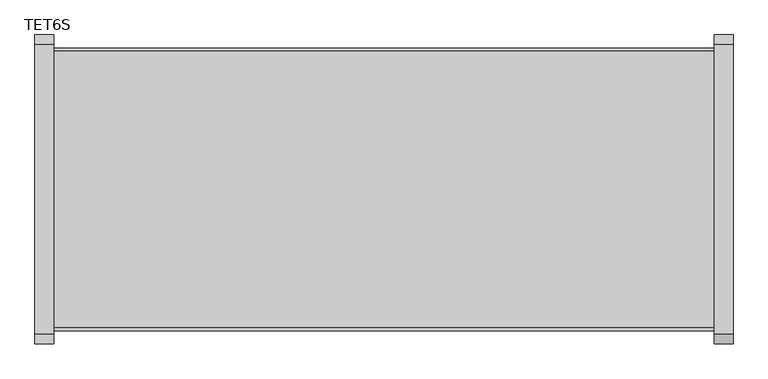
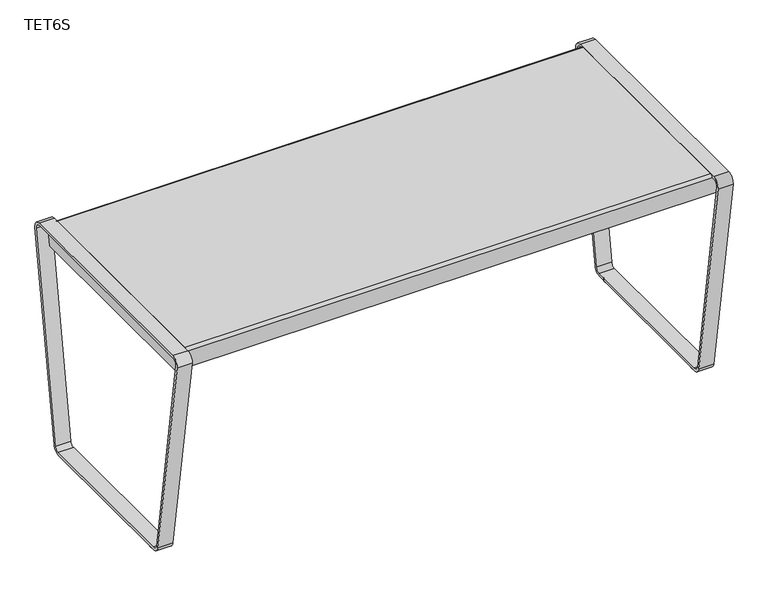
"""IFC4 building model written with IfcOpenShell, lengths in millimetres: furniture geometry, Stance_HC-Terrace-Table_ Steel : TET6S."""

from ifc_helpers import new_model, si_unit, point, frame, frame_2d, origin, origin_with_axes, place, context, project, spatial, polyline, circle_curve, trimmed, segment, composite_curve, outline, extrude, source, transform, mapped, element, save
from ifc_brep_helpers import plane_surface, cylinder_surface, revolved_surface, advanced_brep


def tet6s_bc5166f8(model_context):
    return source(origin(), model_context, "Body", "SolidModel", [
        extrude(outline(polyline([(1441.45, 466.6001935), (1441.45, -283.1265265), (1352.55, -283.1265265), (1352.55, 466.6001935), (1441.45, 466.6001935)])), frame((0.0, 0.0, 762.0), z_axis=(0.0, 0.0, 1.0), x_axis=(1.0, 0.0, 0.0)), (0.0, 0.0, 1.0), 3.175),
        extrude(outline(composite_curve([segment(polyline([(-283.1265265, 762.0), (466.6001935, 762.0), (455.9632684, 701.675)]), True, "CONTINUOUS"), segment(trimmed(circle_curve(frame_2d((91.7368335, 7660.7390549)), 6968.5890549), [point((455.9632684, 701.675))], [point((-272.4896014, 701.675))], False, "CARTESIAN"), True, "CONTINUOUS"), segment(polyline([(-272.4896014, 701.675), (-283.1265265, 762.0)]), True, "CONTINUOUS")], self_intersect=False)), frame((1394.6124, 0.0, 0.0), z_axis=(1.0, 0.0, 0.0), x_axis=(0.0, 1.0, 0.0)), (0.0, 0.0, 1.0), 4.7752),
        extrude(outline(polyline([(1212.85, 466.6001935), (1212.85, -283.1265265), (1123.95, -283.1265265), (1123.95, 466.6001935), (1212.85, 466.6001935)])), frame((0.0, 0.0, 762.0), z_axis=(0.0, 0.0, 1.0), x_axis=(1.0, 0.0, 0.0)), (0.0, 0.0, 1.0), 3.175),
        extrude(outline(composite_curve([segment(polyline([(-283.1265265, 762.0), (466.6001935, 762.0), (455.9632684, 701.675)]), True, "CONTINUOUS"), segment(trimmed(circle_curve(frame_2d((91.7368335, 7660.7390549)), 6968.5890549), [point((455.9632684, 701.675))], [point((-272.4896014, 701.675))], False, "CARTESIAN"), True, "CONTINUOUS"), segment(polyline([(-272.4896014, 701.675), (-283.1265265, 762.0)]), True, "CONTINUOUS")], self_intersect=False)), frame((1166.0124, 0.0, 0.0), z_axis=(1.0, 0.0, 0.0), x_axis=(0.0, 1.0, 0.0)), (0.0, 0.0, 1.0), 4.7752),
        extrude(outline(polyline([(984.25, 466.6001935), (984.25, -283.1265265), (895.35, -283.1265265), (895.35, 466.6001935), (984.25, 466.6001935)])), frame((0.0, 0.0, 762.0), z_axis=(0.0, 0.0, 1.0), x_axis=(1.0, 0.0, 0.0)), (0.0, 0.0, 1.0), 3.175),
        extrude(outline(composite_curve([segment(polyline([(-283.1265265, 762.0), (466.6001935, 762.0), (455.9632684, 701.675)]), True, "CONTINUOUS"), segment(trimmed(circle_curve(frame_2d((91.7368335, 7660.7390549)), 6968.5890549), [point((455.9632684, 701.675))], [point((-272.4896014, 701.675))], False, "CARTESIAN"), True, "CONTINUOUS"), segment(polyline([(-272.4896014, 701.675), (-283.1265265, 762.0)]), True, "CONTINUOUS")], self_intersect=False)), frame((937.4124, 0.0, 0.0), z_axis=(1.0, 0.0, 0.0), x_axis=(0.0, 1.0, 0.0)), (0.0, 0.0, 1.0), 4.7752),
        extrude(outline(polyline([(755.65, 466.6001935), (755.65, -283.1265265), (666.75, -283.1265265), (666.75, 466.6001935), (755.65, 466.6001935)])), frame((0.0, 0.0, 762.0), z_axis=(0.0, 0.0, 1.0), x_axis=(1.0, 0.0, 0.0)), (0.0, 0.0, 1.0), 3.175),
        extrude(outline(composite_curve([segment(polyline([(-283.1265265, 762.0), (466.6001935, 762.0), (455.9632684, 701.675)]), True, "CONTINUOUS"), segment(trimmed(circle_curve(frame_2d((91.7368335, 7660.7390549)), 6968.5890549), [point((455.9632684, 701.675))], [point((-272.4896014, 701.675))], False, "CARTESIAN"), True, "CONTINUOUS"), segment(polyline([(-272.4896014, 701.675), (-283.1265265, 762.0)]), True, "CONTINUOUS")], self_intersect=False)), frame((708.8124, 0.0, 0.0), z_axis=(1.0, 0.0, 0.0), x_axis=(0.0, 1.0, 0.0)), (0.0, 0.0, 1.0), 4.7752),
        extrude(outline(polyline([(527.05, 466.6001935), (527.05, -283.1265265), (438.15, -283.1265265), (438.15, 466.6001935), (527.05, 466.6001935)])), frame((0.0, 0.0, 762.0), z_axis=(0.0, 0.0, 1.0), x_axis=(1.0, 0.0, 0.0)), (0.0, 0.0, 1.0), 3.175),
        extrude(outline(composite_curve([segment(polyline([(-283.1265265, 762.0), (466.6001935, 762.0), (455.9632684, 701.675)]), True, "CONTINUOUS"), segment(trimmed(circle_curve(frame_2d((91.7368335, 7660.7390549)), 6968.5890549), [point((455.9632684, 701.675))], [point((-272.4896014, 701.675))], False, "CARTESIAN"), True, "CONTINUOUS"), segment(polyline([(-272.4896014, 701.675), (-283.1265265, 762.0)]), True, "CONTINUOUS")], self_intersect=False)), frame((480.2124, 0.0, 0.0), z_axis=(1.0, 0.0, 0.0), x_axis=(0.0, 1.0, 0.0)), (0.0, 0.0, 1.0), 4.7752),
        extrude(outline(polyline([(1670.05, 466.6001935), (1670.05, -283.1265265), (1581.15, -283.1265265), (1581.15, 466.6001935), (1670.05, 466.6001935)])), frame((0.0, 0.0, 762.0), z_axis=(0.0, 0.0, 1.0), x_axis=(1.0, 0.0, 0.0)), (0.0, 0.0, 1.0), 3.175),
        extrude(outline(composite_curve([segment(polyline([(-283.1265265, 762.0), (466.6001935, 762.0), (455.9632684, 701.675)]), True, "CONTINUOUS"), segment(trimmed(circle_curve(frame_2d((91.7368335, 7660.7390549)), 6968.5890549), [point((455.9632684, 701.675))], [point((-272.4896014, 701.675))], False, "CARTESIAN"), True, "CONTINUOUS"), segment(polyline([(-272.4896014, 701.675), (-283.1265265, 762.0)]), True, "CONTINUOUS")], self_intersect=False)), frame((1623.2124, 0.0, 0.0), z_axis=(1.0, 0.0, 0.0), x_axis=(0.0, 1.0, 0.0)), (0.0, 0.0, 1.0), 4.7752),
        extrude(outline(polyline([(298.45, 466.6001935), (298.45, -283.1265265), (209.55, -283.1265265), (209.55, 466.6001935), (298.45, 466.6001935)])), frame((0.0, 0.0, 762.0), z_axis=(0.0, 0.0, 1.0), x_axis=(1.0, 0.0, 0.0)), (0.0, 0.0, 1.0), 3.175),
        extrude(outline(composite_curve([segment(polyline([(-283.1265265, 762.0), (466.6001935, 762.0), (455.9632684, 701.675)]), True, "CONTINUOUS"), segment(trimmed(circle_curve(frame_2d((91.7368335, 7660.7390549)), 6968.5890549), [point((455.9632684, 701.675))], [point((-272.4896014, 701.675))], False, "CARTESIAN"), True, "CONTINUOUS"), segment(polyline([(-272.4896014, 701.675), (-283.1265265, 762.0)]), True, "CONTINUOUS")], self_intersect=False)), frame((251.6124, 0.0, 0.0), z_axis=(1.0, 0.0, 0.0), x_axis=(0.0, 1.0, 0.0)), (0.0, 0.0, 1.0), 4.7752),
        extrude(outline(composite_curve([segment(trimmed(circle_curve(frame_2d((1854.2, 346.0495496)), 22.225), [point((1876.425, 346.0495496))], [point((1831.975, 346.0495496))], False, "CARTESIAN"), True, "CONTINUOUS"), segment(trimmed(circle_curve(frame_2d((1854.2, 346.0495496)), 22.225), [point((1831.975, 346.0495496))], [point((1876.425, 346.0495496))], False, "CARTESIAN"), True, "CONTINUOUS")], self_intersect=False)), origin_with_axes(), (0.0, 0.0, 1.0), 6.35),
        extrude(outline(composite_curve([segment(trimmed(circle_curve(frame_2d((1854.2, -161.9504504)), 22.225), [point((1876.425, -161.9504504))], [point((1831.975, -161.9504504))], False, "CARTESIAN"), True, "CONTINUOUS"), segment(trimmed(circle_curve(frame_2d((1854.2, -161.9504504)), 22.225), [point((1831.975, -161.9504504))], [point((1876.425, -161.9504504))], False, "CARTESIAN"), True, "CONTINUOUS")], self_intersect=False)), origin_with_axes(), (0.0, 0.0, 1.0), 6.35),
        extrude(outline(polyline([(461.2929482, 692.15), (-277.1938489, 692.15), (-288.9504504, 758.825), (473.0495496, 758.825), (461.2929482, 692.15)])), frame((1851.025, 0.0, 0.0), z_axis=(1.0, 0.0, 0.0), x_axis=(0.0, 1.0, 0.0)), (0.0, 0.0, 1.0), 6.35),
        extrude(outline(composite_curve([segment(trimmed(circle_curve(frame_2d((370.3861957, 31.75)), 25.4), [point((395.4734795, 27.7765646))], [point((370.3861957, 6.35))], False, "CARTESIAN"), True, "CONTINUOUS"), segment(polyline([(370.3861957, 6.35), (-186.2870964, 6.35)]), True, "CONTINUOUS"), segment(trimmed(circle_curve(frame_2d((-186.2870964, 31.75)), 25.4), [point((-186.2870964, 6.35))], [point((-211.3743803, 27.7765646))], False, "CARTESIAN"), True, "CONTINUOUS"), segment(polyline([(-211.3743803, 27.7765646), (-324.0173942, 738.9765646)]), True, "CONTINUOUS"), segment(trimmed(circle_curve(frame_2d((-298.9301104, 742.95)), 25.4), [point((-324.0173942, 738.9765646))], [point((-298.9301104, 768.35))], False, "CARTESIAN"), True, "CONTINUOUS"), segment(polyline([(-298.9301104, 768.35), (483.0292096, 768.35)]), True, "CONTINUOUS"), segment(trimmed(circle_curve(frame_2d((483.0292096, 742.95)), 25.4), [point((483.0292096, 768.35))], [point((508.1164935, 738.9765646))], False, "CARTESIAN"), True, "CONTINUOUS"), segment(polyline([(508.1164935, 738.9765646), (395.4734795, 27.7765646)]), True, "CONTINUOUS")], self_intersect=False), holes=[composite_curve([segment(trimmed(circle_curve(frame_2d((-298.9301104, 742.95)), 15.875), [point((-298.9301104, 758.825))], [point((-314.6096628, 740.4666029))], True, "CARTESIAN"), True, "CONTINUOUS"), segment(polyline([(-314.6096628, 740.4666029), (-201.9666488, 29.2666029)]), True, "CONTINUOUS"), segment(trimmed(circle_curve(frame_2d((-186.2870964, 31.75)), 15.875), [point((-201.9666488, 29.2666029))], [point((-186.2870964, 15.875))], True, "CARTESIAN"), True, "CONTINUOUS"), segment(polyline([(-186.2870964, 15.875), (370.3861957, 15.875)]), True, "CONTINUOUS"), segment(trimmed(circle_curve(frame_2d((370.3861957, 31.75)), 15.875), [point((370.3861957, 15.875))], [point((386.0657481, 29.2666029))], True, "CARTESIAN"), True, "CONTINUOUS"), segment(polyline([(386.0657481, 29.2666029), (498.708762, 740.4666029)]), True, "CONTINUOUS"), segment(trimmed(circle_curve(frame_2d((483.0292096, 742.95)), 15.875), [point((498.708762, 740.4666029))], [point((483.0292096, 758.825))], True, "CARTESIAN"), True, "CONTINUOUS"), segment(polyline([(483.0292096, 758.825), (-298.9301104, 758.825)]), True, "CONTINUOUS")], self_intersect=False)]), frame((1828.8, 0.0, 0.0), z_axis=(1.0, 0.0, 0.0), x_axis=(0.0, 1.0, 0.0)), (0.0, 0.0, 1.0), 50.8),
        extrude(outline(composite_curve([segment(trimmed(circle_curve(frame_2d((25.4, 346.0495496)), 22.225), [point((3.175, 346.0495496))], [point((47.625, 346.0495496))], False, "CARTESIAN"), True, "CONTINUOUS"), segment(trimmed(circle_curve(frame_2d((25.4, 346.0495496)), 22.225), [point((47.625, 346.0495496))], [point((3.175, 346.0495496))], False, "CARTESIAN"), True, "CONTINUOUS")], self_intersect=False)), origin_with_axes(), (0.0, 0.0, 1.0), 6.35),
        extrude(outline(composite_curve([segment(trimmed(circle_curve(frame_2d((25.4, -161.9504504)), 22.225), [point((3.175, -161.9504504))], [point((47.625, -161.9504504))], False, "CARTESIAN"), True, "CONTINUOUS"), segment(trimmed(circle_curve(frame_2d((25.4, -161.9504504)), 22.225), [point((47.625, -161.9504504))], [point((3.175, -161.9504504))], False, "CARTESIAN"), True, "CONTINUOUS")], self_intersect=False)), origin_with_axes(), (0.0, 0.0, 1.0), 6.35),
        extrude(outline(polyline([(461.2929482, 692.15), (-277.1938489, 692.15), (-288.9504504, 758.825), (473.0495496, 758.825), (461.2929482, 692.15)])), frame((22.225, 0.0, 0.0), z_axis=(1.0, 0.0, 0.0), x_axis=(0.0, 1.0, 0.0)), (0.0, 0.0, 1.0), 6.35),
        extrude(outline(composite_curve([segment(polyline([(-298.9301104, 768.35), (483.0292096, 768.35)]), True, "CONTINUOUS"), segment(trimmed(circle_curve(frame_2d((483.0292096, 742.95)), 25.4), [point((483.0292096, 768.35))], [point((508.1164935, 738.9765646))], False, "CARTESIAN"), True, "CONTINUOUS"), segment(polyline([(508.1164935, 738.9765646), (395.4734795, 27.7765646)]), True, "CONTINUOUS"), segment(trimmed(circle_curve(frame_2d((370.3861957, 31.75)), 25.4), [point((395.4734795, 27.7765646))], [point((370.3861957, 6.35))], False, "CARTESIAN"), True, "CONTINUOUS"), segment(polyline([(370.3861957, 6.35), (-186.2870964, 6.35)]), True, "CONTINUOUS"), segment(trimmed(circle_curve(frame_2d((-186.2870964, 31.75)), 25.4), [point((-186.2870964, 6.35))], [point((-211.3743803, 27.7765646))], False, "CARTESIAN"), True, "CONTINUOUS"), segment(polyline([(-211.3743803, 27.7765646), (-324.0173942, 738.9765646)]), True, "CONTINUOUS"), segment(trimmed(circle_curve(frame_2d((-298.9301104, 742.95)), 25.4), [point((-324.0173942, 738.9765646))], [point((-298.9301104, 768.35))], False, "CARTESIAN"), True, "CONTINUOUS")], self_intersect=False), holes=[composite_curve([segment(polyline([(386.0657481, 29.2666029), (498.708762, 740.4666029)]), True, "CONTINUOUS"), segment(trimmed(circle_curve(frame_2d((483.0292096, 742.95)), 15.875), [point((498.708762, 740.4666029))], [point((483.0292096, 758.825))], True, "CARTESIAN"), True, "CONTINUOUS"), segment(polyline([(483.0292096, 758.825), (-298.9301104, 758.825)]), True, "CONTINUOUS"), segment(trimmed(circle_curve(frame_2d((-298.9301104, 742.95)), 15.875), [point((-298.9301104, 758.825))], [point((-314.6096628, 740.4666029))], True, "CARTESIAN"), True, "CONTINUOUS"), segment(polyline([(-314.6096628, 740.4666029), (-201.9666488, 29.2666029)]), True, "CONTINUOUS"), segment(trimmed(circle_curve(frame_2d((-186.2870964, 31.75)), 15.875), [point((-201.9666488, 29.2666029))], [point((-186.2870964, 15.875))], True, "CARTESIAN"), True, "CONTINUOUS"), segment(polyline([(-186.2870964, 15.875), (370.3861957, 15.875)]), True, "CONTINUOUS"), segment(trimmed(circle_curve(frame_2d((370.3861957, 31.75)), 15.875), [point((370.3861957, 15.875))], [point((386.0657481, 29.2666029))], True, "CARTESIAN"), True, "CONTINUOUS")], self_intersect=False)]), frame((0.0, 0.0, 0.0), z_axis=(1.0, 0.0, 0.0), x_axis=(0.0, 1.0, 0.0)), (0.0, 0.0, 1.0), 50.8),
        advanced_brep(
        [(1851.025, -277.1018344, 692.15), (1851.025, -251.7018344, 692.15), (1851.025, -251.7018344, 695.325), (1851.025, -274.4376931, 695.325), (1851.025, -285.6344564, 758.825), (1851.025, -288.8584359, 758.825), (1851.025, 458.5367924, 695.325), (1851.025, 435.8009337, 695.325), (1851.025, 435.8009337, 692.15), (1851.025, 461.2009337, 692.15), (1851.025, 472.9575351, 758.825), (1851.025, 469.7335556, 758.825), (28.575, 461.2009337, 692.15), (28.575, 435.8009337, 692.15), (28.575, 435.8009337, 695.325), (28.575, 458.5367924, 695.325), (28.575, 469.7335556, 758.825), (28.575, 472.9575351, 758.825), (28.575, -274.4376931, 695.325), (28.575, -251.7018344, 695.325), (28.575, -251.7018344, 692.15), (28.575, -277.1018344, 692.15), (28.575, -288.8584359, 758.825), (28.575, -285.6344564, 758.825), (1828.8, -281.0784062, 768.35), (50.8, -281.0784062, 768.35), (50.8, -288.8953178, 759.0341676), (1828.8, -288.8953178, 759.0341676), (1828.8, -288.8584359, 758.825), (50.8, -288.8584359, 758.825), (50.8, -285.6344564, 758.825), (50.8, -285.7685532, 759.5855006), (1828.8, -285.7685532, 759.5855006), (1828.8, -285.6344564, 758.825), (50.8, -281.0784062, 765.175), (1828.8, -281.0784062, 765.175), (50.8, 465.1775055, 765.175), (1828.8, 465.1775055, 765.175), (50.8, 469.8676524, 759.5855006), (1828.8, 469.8676524, 759.5855006), (1828.8, 469.7335556, 758.825), (50.8, 469.7335556, 758.825), (50.8, 472.9575351, 758.825), (50.8, 472.994417, 759.0341676), (1828.8, 472.994417, 759.0341676), (1828.8, 472.9575351, 758.825), (50.8, 465.1775055, 768.35), (1828.8, 465.1775055, 768.35)],
        [
            (0, 1),
            (1, 2),
            (2, 3),
            (3, 4),
            (4, 5),
            (5, 0),
            (6, 7),
            (7, 8),
            (8, 9),
            (9, 10),
            (10, 11),
            (11, 6),
            (12, 13),
            (13, 14),
            (14, 15),
            (15, 16),
            (16, 17),
            (17, 12),
            (18, 19),
            (19, 20),
            (20, 21),
            (21, 22),
            (22, 23),
            (23, 18),
            (24, 25),
            (25, 26, circle_curve(frame((50.8, -281.0784062, 760.4125), z_axis=(1.0, 0.0, 0.0), x_axis=(0.0, 1.0, 0.0)), 7.9375)),
            (26, 27),
            (27, 24, circle_curve(frame((1828.8, -281.0784062, 760.4125), z_axis=(-1.0, 0.0, 0.0), x_axis=(0.0, 1.0, 0.0)), 7.9375)),
            (21, 0),
            (5, 28),
            (28, 27),
            (26, 29),
            (29, 22),
            (20, 1),
            (19, 2),
            (18, 3),
            (23, 30),
            (30, 31),
            (31, 32),
            (32, 33),
            (33, 4),
            (31, 34, circle_curve(frame((50.8, -281.0784062, 760.4125), z_axis=(-1.0, 0.0, 0.0), x_axis=(0.0, 1.0, 0.0)), 4.7625)),
            (34, 35),
            (35, 32, circle_curve(frame((1828.8, -281.0784062, 760.4125), z_axis=(1.0, 0.0, 0.0), x_axis=(0.0, 1.0, 0.0)), 4.7625)),
            (34, 36),
            (36, 37),
            (37, 35),
            (36, 38, circle_curve(frame((50.8, 465.1775055, 760.4125), z_axis=(-1.0, 0.0, 0.0), x_axis=(0.0, 1.0, 0.0)), 4.7625)),
            (38, 39),
            (39, 37, circle_curve(frame((1828.8, 465.1775055, 760.4125), z_axis=(1.0, 0.0, 0.0), x_axis=(0.0, 1.0, 0.0)), 4.7625)),
            (15, 6),
            (11, 40),
            (40, 39),
            (38, 41),
            (41, 16),
            (14, 7),
            (13, 8),
            (12, 9),
            (17, 42),
            (42, 43),
            (43, 44),
            (44, 45),
            (45, 10),
            (43, 46, circle_curve(frame((50.8, 465.1775055, 760.4125), z_axis=(1.0, 0.0, 0.0), x_axis=(0.0, 1.0, 0.0)), 7.9375)),
            (46, 47),
            (47, 44, circle_curve(frame((1828.8, 465.1775055, 760.4125), z_axis=(-1.0, 0.0, 0.0), x_axis=(0.0, 1.0, 0.0)), 7.9375)),
            (24, 47),
            (46, 25),
            (29, 30),
            (41, 42),
            (28, 33),
            (40, 45),
        ],
        [
            plane_surface(frame((1851.025, -273.1409062, 760.4125), z_axis=(1.0, 0.0, 0.0), x_axis=(0.0, 0.0, 1.0))),
            plane_surface(frame((28.575, -273.1409062, 760.4125), z_axis=(-1.0, 0.0, 0.0), x_axis=(0.0, 0.0, -1.0))),
            cylinder_surface(frame((28.575, -281.0784062, 760.4125), z_axis=(1.0, 0.0, 0.0), x_axis=(0.0, 1.0, 0.0)), 7.9375),
            plane_surface(frame((1851.025, -288.8953178, 759.0341676), z_axis=(0.0, -0.9848077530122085, -0.1736481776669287), x_axis=(-1.0, 0.0, 0.0))),
            plane_surface(frame((1851.025, -277.1018344, 692.15), z_axis=(0.0, 0.0, -1.0), x_axis=(-1.0, 0.0, 0.0))),
            plane_surface(frame((1851.025, -251.7018344, 692.15), z_axis=(0.0, 1.0, 0.0), x_axis=(-1.0, 0.0, 0.0))),
            plane_surface(frame((1851.025, -251.7018344, 695.325), z_axis=(0.0, 0.0, 1.0), x_axis=(-1.0, 0.0, 0.0))),
            plane_surface(frame((1851.025, -274.4376931, 695.325), z_axis=(0.0, 0.9848077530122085, 0.17364817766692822), x_axis=(-1.0, 0.0, 0.0))),
            revolved_surface(polyline([(50.8, -276.31590620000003, 760.4125), (1828.8, -276.31590620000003, 760.4125)]), (28.575, -281.0784062, 760.4125), (-1.0, 0.0, 0.0)),
            plane_surface(frame((1851.025, -281.0784062, 765.175), z_axis=(0.0, 0.0, -1.0), x_axis=(-1.0, 0.0, 0.0))),
            revolved_surface(polyline([(50.8, 469.9400055, 760.4125), (1828.8, 469.9400055, 760.4125)]), (28.575, 465.1775055, 760.4125), (-1.0, 0.0, 0.0)),
            plane_surface(frame((1851.025, 469.8676524, 759.5855006), z_axis=(0.0, -0.9848077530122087, 0.17364817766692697), x_axis=(-1.0, 0.0, 0.0))),
            plane_surface(frame((1851.025, 458.5367924, 695.325), z_axis=(0.0, 0.0, 1.0), x_axis=(-1.0, 0.0, 0.0))),
            plane_surface(frame((1851.025, 435.8009337, 695.325), z_axis=(0.0, -1.0, 0.0), x_axis=(-1.0, 0.0, 0.0))),
            plane_surface(frame((1851.025, 435.8009337, 692.15), z_axis=(0.0, 0.0, -1.0), x_axis=(-1.0, 0.0, 0.0))),
            plane_surface(frame((1851.025, 461.2009337, 692.15), z_axis=(0.0, 0.9848077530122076, -0.17364817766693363), x_axis=(-1.0, 0.0, 0.0))),
            cylinder_surface(frame((28.575, 465.1775055, 760.4125), z_axis=(1.0, 0.0, 0.0), x_axis=(0.0, 1.0, 0.0)), 7.9375),
            plane_surface(frame((1851.025, 465.1775055, 768.35), z_axis=(0.0, 0.0, 1.0), x_axis=(-1.0, 0.0, 0.0))),
            plane_surface(frame((28.575, -342.7835065, 758.825), z_axis=(0.0, 0.0, 1.0), x_axis=(0.0, 1.0, 0.0))),
            plane_surface(frame((50.8, -342.7835065, 758.825), z_axis=(-1.0, 0.0, 0.0), x_axis=(0.0, 1.0, 0.0))),
            plane_surface(frame((1828.8, -342.7835065, 776.4227825), z_axis=(1.0, 0.0, 0.0), x_axis=(0.0, 1.0, 0.0))),
            plane_surface(frame((1828.8, -342.7835065, 758.825), z_axis=(0.0, 0.0, 1.0), x_axis=(0.0, 1.0, 0.0))),
        ],
        [
            (0, [[1, 2, 3, 4, 5, 6]]),
            (0, [[7, 8, 9, 10, 11, 12]]),
            (1, [[13, 14, 15, 16, 17, 18]]),
            (1, [[19, 20, 21, 22, 23, 24]]),
            (2, [[25, 26, 27, 28]]),
            (3, [[29, -6, 30, 31, -27, 32, 33, -22]]),
            (4, [[-1, -29, -21, 34]]),
            (5, [[-2, -34, -20, 35]]),
            (6, [[-3, -35, -19, 36]]),
            (7, [[-36, -24, 37, 38, 39, 40, 41, -4]]),
            (8, [[-39, 42, 43, 44]]),
            (9, [[-43, 45, 46, 47]]),
            (10, [[-46, 48, 49, 50]]),
            (11, [[51, -12, 52, 53, -49, 54, 55, -16]]),
            (12, [[-7, -51, -15, 56]]),
            (13, [[-8, -56, -14, 57]]),
            (14, [[-9, -57, -13, 58]]),
            (15, [[-58, -18, 59, 60, 61, 62, 63, -10]]),
            (16, [[-61, 64, 65, 66]]),
            (17, [[-25, 67, -65, 68]]),
            (18, [[69, -37, -23, -33]]),
            (18, [[70, -59, -17, -55]]),
            (19, [[-69, -32, -26, -68, -64, -60, -70, -54, -48, -45, -42, -38]]),
            (20, [[71, -40, -44, -47, -50, -53, 72, -62, -66, -67, -28, -31]]),
            (21, [[-71, -30, -5, -41]]),
            (21, [[-72, -52, -11, -63]]),
        ],
    ),
        extrude(outline(polyline([(-283.6878665, 752.475), (467.1615335, 752.475), (456.5246084, 692.15), (-273.0509414, 692.15), (-283.6878665, 752.475)])), frame((1847.85, 0.0, 0.0), z_axis=(1.0, 0.0, 0.0), x_axis=(0.0, 1.0, 0.0)), (0.0, 0.0, 1.0), 3.175),
        extrude(outline(polyline([(-283.6878665, 752.475), (467.1615335, 752.475), (456.5246084, 692.15), (-273.0509414, 692.15), (-283.6878665, 752.475)])), frame((28.575, 0.0, 0.0), z_axis=(1.0, 0.0, 0.0), x_axis=(0.0, 1.0, 0.0)), (0.0, 0.0, 1.0), 4.7625),
    ])


if __name__ == "__main__":
    model = new_model("IFC4")
    model_context = context("Model", 3, world=origin())
    ifc_project = project(units=[si_unit("LENGTHUNIT", "METRE", prefix="MILLI")], contexts=[model_context])
    site = spatial("IfcSite", under=ifc_project)
    building = spatial("IfcBuilding", under=site)
    placement = place(None, origin())
    tet6s_shape = tet6s_bc5166f8(model_context)
    element("IfcFurniture", 1, ObjectType="Stance_HC-Terrace-Table_ Steel : TET6S", at=placement, inside=building, context=model_context, shape_type="MappedRepresentation", body=[
        mapped(tet6s_shape, transform((0.0, 0.0, 0.0), x_axis=(1.0, 0.0, 0.0), y_axis=(0.0, 1.0, 0.0), z_axis=(0.0, 0.0, 1.0))),
    ])
    save(model, "model.ifc")
